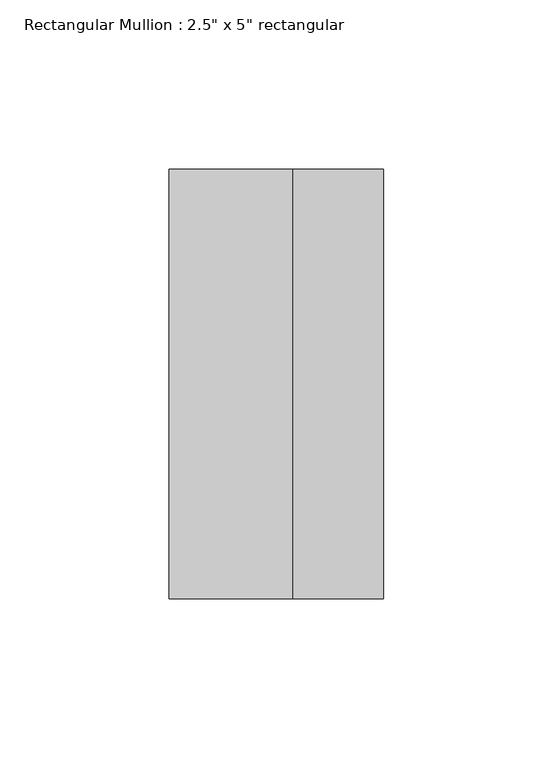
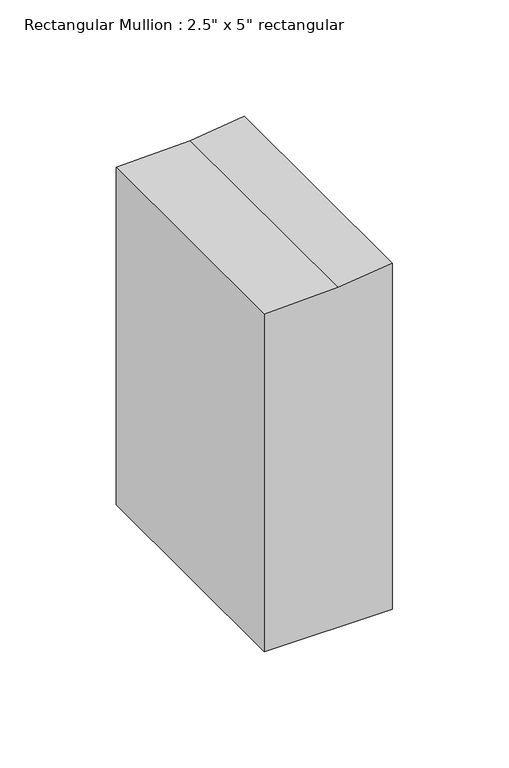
"""IFC4 building model written with IfcOpenShell, lengths in millimetres: member geometry."""

from ifc_helpers import new_model, si_unit, frame, origin, place, context, project, spatial, polyline, outline, extrude, source, transform, mapped, element, save


def member_65e1c58e(model_context):
    return source(origin(), model_context, "Body", "SweptSolid", [
        extrude(outline(polyline([(-60.0968013, 31.75), (-63.3709036, 4.9178514), (-64.5988799, -31.75), (-241.4886946, -31.75), (-241.4886946, 31.75), (-60.0968013, 31.75)])), frame((0.0, -63.5, 0.0), z_axis=(0.0, 1.0, 0.0), x_axis=(0.0, 0.0, 1.0)), (0.0, 0.0, 1.0), 127.0),
    ])


if __name__ == "__main__":
    model = new_model("IFC4")
    model_context = context("Model", 3, world=origin())
    ifc_project = project(units=[si_unit("LENGTHUNIT", "METRE", prefix="MILLI")], contexts=[model_context])
    site = spatial("IfcSite", under=ifc_project)
    building = spatial("IfcBuilding", under=site)
    placement = place(None, origin())
    member_shape = member_65e1c58e(model_context)
    element("IfcMember", 1, ObjectType="Rectangular Mullion : 2.5\" x 5\" rectangular", at=placement, inside=building, context=model_context, shape_type="MappedRepresentation", body=[
        mapped(member_shape, transform((0.0, 0.0, 0.0), x_axis=(1.0, 0.0, 0.0), y_axis=(0.0, 1.0, 0.0), z_axis=(0.0, 0.0, 1.0))),
    ])
    save(model, "model.ifc")
